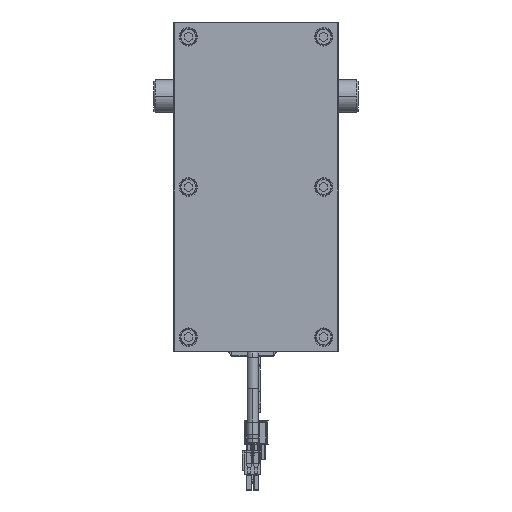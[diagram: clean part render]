
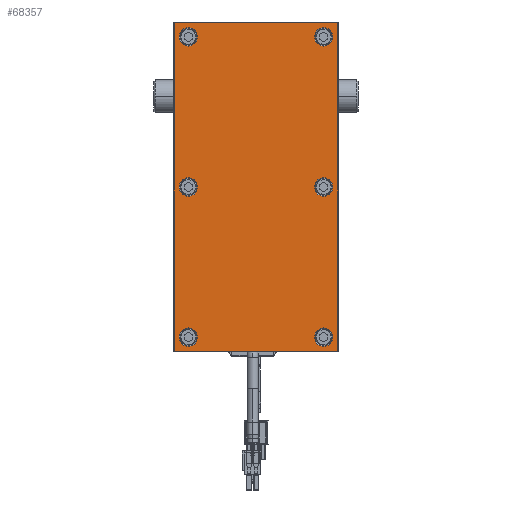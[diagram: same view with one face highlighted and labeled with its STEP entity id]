
A CAD part, front view. The second image highlights one B-rep face of the part: STEP entity #68357.
In plain terms, the highlighted planar face has unit normal (0, -1, 0).
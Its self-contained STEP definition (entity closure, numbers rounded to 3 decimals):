
#66946=CARTESIAN_POINT('',(99.,-7.,-49.));
#66947=DIRECTION('',(0.,-1.,0.));
#66948=DIRECTION('',(0.,0.,-1.));
#66949=AXIS2_PLACEMENT_3D('',#66946,#66947,#66948);
#66951=DIRECTION('',(1.,0.,0.));
#66952=VECTOR('',#66951,198.);
#66953=CARTESIAN_POINT('',(-99.,-7.,
-49.5));
#66954=LINE('',#66953,#66952);
#66955=CARTESIAN_POINT('',(-99.,-7.,-49.));
#66956=DIRECTION('',(0.,-1.,0.));
#66957=DIRECTION('',(-1.,0.,0.));
#66958=AXIS2_PLACEMENT_3D('',#66955,#66956,#66957);
#66960=DIRECTION('',(0.,0.,-1.));
#66961=VECTOR('',#66960,98.);
#66962=CARTESIAN_POINT('',(-99.5,-7.,
49.));
#66963=LINE('',#66962,#66961);
#66964=CARTESIAN_POINT('',(-99.,-7.,49.));
#66965=DIRECTION('',(0.,-1.,0.));
#66966=DIRECTION('',(0.,0.,1.));
#66967=AXIS2_PLACEMENT_3D('',#66964,#66965,#66966);
#66969=DIRECTION('',(-1.,0.,0.));
#66970=VECTOR('',#66969,198.);
#66971=CARTESIAN_POINT('',(99.,-7.,
49.5));
#66972=LINE('',#66971,#66970);
#66973=CARTESIAN_POINT('',(99.,-7.,49.));
#66974=DIRECTION('',(0.,-1.,0.));
#66975=DIRECTION('',(1.,0.,0.));
#66976=AXIS2_PLACEMENT_3D('',#66973,#66974,#66975);
#66978=DIRECTION('',(0.,0.,1.));
#66979=VECTOR('',#66978,98.);
#66980=CARTESIAN_POINT('',(99.5,-7.,
-49.));
#66981=LINE('',#66980,#66979);
#66982=CARTESIAN_POINT('',(-91.,-7.,-41.));
#66983=DIRECTION('',(0.,1.,0.));
#66984=DIRECTION('',(1.,0.,0.));
#66985=AXIS2_PLACEMENT_3D('',#66982,#66983,#66984);
#66987=CARTESIAN_POINT('',(-91.,-7.,-41.));
#66988=DIRECTION('',(0.,1.,0.));
#66989=DIRECTION('',(-1.,0.,0.));
#66990=AXIS2_PLACEMENT_3D('',#66987,#66988,#66989);
#66992=CARTESIAN_POINT('',(0.,-7.,-41.));
#66993=DIRECTION('',(0.,1.,0.));
#66994=DIRECTION('',(1.,0.,0.));
#66995=AXIS2_PLACEMENT_3D('',#66992,#66993,#66994);
#66997=CARTESIAN_POINT('',(0.,-7.,-41.));
#66998=DIRECTION('',(0.,1.,0.));
#66999=DIRECTION('',(-1.,0.,0.));
#67000=AXIS2_PLACEMENT_3D('',#66997,#66998,#66999);
#67002=CARTESIAN_POINT('',(91.,-7.,-41.));
#67003=DIRECTION('',(0.,1.,0.));
#67004=DIRECTION('',(1.,0.,0.));
#67005=AXIS2_PLACEMENT_3D('',#67002,#67003,#67004);
#67007=CARTESIAN_POINT('',(91.,-7.,-41.));
#67008=DIRECTION('',(0.,1.,0.));
#67009=DIRECTION('',(-1.,0.,0.));
#67010=AXIS2_PLACEMENT_3D('',#67007,#67008,#67009);
#67012=CARTESIAN_POINT('',(91.,-7.,41.));
#67013=DIRECTION('',(0.,1.,0.));
#67014=DIRECTION('',(1.,0.,0.));
#67015=AXIS2_PLACEMENT_3D('',#67012,#67013,#67014);
#67017=CARTESIAN_POINT('',(91.,-7.,41.));
#67018=DIRECTION('',(0.,1.,0.));
#67019=DIRECTION('',(-1.,0.,0.));
#67020=AXIS2_PLACEMENT_3D('',#67017,#67018,#67019);
#67022=CARTESIAN_POINT('',(0.,-7.,41.));
#67023=DIRECTION('',(0.,1.,0.));
#67024=DIRECTION('',(1.,0.,0.));
#67025=AXIS2_PLACEMENT_3D('',#67022,#67023,#67024);
#67027=CARTESIAN_POINT('',(0.,-7.,41.));
#67028=DIRECTION('',(0.,1.,0.));
#67029=DIRECTION('',(-1.,0.,0.));
#67030=AXIS2_PLACEMENT_3D('',#67027,#67028,#67029);
#67032=CARTESIAN_POINT('',(-91.,-7.,41.));
#67033=DIRECTION('',(0.,1.,0.));
#67034=DIRECTION('',(1.,0.,0.));
#67035=AXIS2_PLACEMENT_3D('',#67032,#67033,#67034);
#67037=CARTESIAN_POINT('',(-91.,-7.,41.));
#67038=DIRECTION('',(0.,1.,0.));
#67039=DIRECTION('',(-1.,0.,0.));
#67040=AXIS2_PLACEMENT_3D('',#67037,#67038,#67039);
#68098=CARTESIAN_POINT('',(99.,-7.,-49.5));
#68099=CARTESIAN_POINT('',(99.5,-7.,-49.));
#68100=VERTEX_POINT('',#68098);
#68101=VERTEX_POINT('',#68099);
#68106=CARTESIAN_POINT('',(99.5,-7.,
49.));
#68107=VERTEX_POINT('',#68106);
#68110=CARTESIAN_POINT('',(99.,-7.,49.5));
#68111=VERTEX_POINT('',#68110);
#68114=CARTESIAN_POINT('',(-99.,-7.,
49.5));
#68115=VERTEX_POINT('',#68114);
#68118=CARTESIAN_POINT('',(-99.5,-7.,49.));
#68119=VERTEX_POINT('',#68118);
#68122=CARTESIAN_POINT('',(-99.5,-7.,
-49.));
#68123=VERTEX_POINT('',#68122);
#68126=CARTESIAN_POINT('',(-99.,-7.,-49.5));
#68127=VERTEX_POINT('',#68126);
#68154=CARTESIAN_POINT('',(-85.45,-7.,-41.));
#68155=CARTESIAN_POINT('',(-96.55,-7.,-41.));
#68156=VERTEX_POINT('',#68154);
#68157=VERTEX_POINT('',#68155);
#68170=CARTESIAN_POINT('',(5.55,-7.,-41.));
#68171=CARTESIAN_POINT('',(-5.55,-7.,-41.));
#68172=VERTEX_POINT('',#68170);
#68173=VERTEX_POINT('',#68171);
#68194=CARTESIAN_POINT('',(96.55,-7.,-41.));
#68195=CARTESIAN_POINT('',(85.45,-7.,-41.));
#68196=VERTEX_POINT('',#68194);
#68197=VERTEX_POINT('',#68195);
#68210=CARTESIAN_POINT('',(96.55,-7.,41.));
#68211=CARTESIAN_POINT('',(85.45,-7.,41.));
#68212=VERTEX_POINT('',#68210);
#68213=VERTEX_POINT('',#68211);
#68218=CARTESIAN_POINT('',(5.55,-7.,41.));
#68219=CARTESIAN_POINT('',(-5.55,-7.,41.));
#68220=VERTEX_POINT('',#68218);
#68221=VERTEX_POINT('',#68219);
#68242=CARTESIAN_POINT('',(-85.45,-7.,41.));
#68243=CARTESIAN_POINT('',(-96.55,-7.,41.));
#68244=VERTEX_POINT('',#68242);
#68245=VERTEX_POINT('',#68243);
#68298=CARTESIAN_POINT('',(0.,-7.,0.));
#68299=DIRECTION('',(0.,1.,0.));
#68300=DIRECTION('',(1.,0.,0.));
#68301=AXIS2_PLACEMENT_3D('',#68298,#68299,#68300);
#68302=PLANE('',#68301);
#68304=ORIENTED_EDGE('',*,*,#68303,.F.);
#68306=ORIENTED_EDGE('',*,*,#68305,.F.);
#68308=ORIENTED_EDGE('',*,*,#68307,.F.);
#68310=ORIENTED_EDGE('',*,*,#68309,.F.);
#68312=ORIENTED_EDGE('',*,*,#68311,.F.);
#68314=ORIENTED_EDGE('',*,*,#68313,.F.);
#68316=ORIENTED_EDGE('',*,*,#68315,.F.);
#68318=ORIENTED_EDGE('',*,*,#68317,.F.);
#68319=EDGE_LOOP('',(#68304,#68306,#68308,#68310,#68312,#68314,#68316,#68318));
#68320=FACE_OUTER_BOUND('',#68319,.F.);
#68322=ORIENTED_EDGE('',*,*,#68321,.F.);
#68324=ORIENTED_EDGE('',*,*,#68323,.F.);
#68325=EDGE_LOOP('',(#68322,#68324));
#68326=FACE_BOUND('',#68325,.F.);
#68328=ORIENTED_EDGE('',*,*,#68327,.F.);
#68330=ORIENTED_EDGE('',*,*,#68329,.F.);
#68331=EDGE_LOOP('',(#68328,#68330));
#68332=FACE_BOUND('',#68331,.F.);
#68334=ORIENTED_EDGE('',*,*,#68333,.F.);
#68336=ORIENTED_EDGE('',*,*,#68335,.F.);
#68337=EDGE_LOOP('',(#68334,#68336));
#68338=FACE_BOUND('',#68337,.F.);
#68340=ORIENTED_EDGE('',*,*,#68339,.F.);
#68342=ORIENTED_EDGE('',*,*,#68341,.F.);
#68343=EDGE_LOOP('',(#68340,#68342));
#68344=FACE_BOUND('',#68343,.F.);
#68346=ORIENTED_EDGE('',*,*,#68345,.F.);
#68348=ORIENTED_EDGE('',*,*,#68347,.F.);
#68349=EDGE_LOOP('',(#68346,#68348));
#68350=FACE_BOUND('',#68349,.F.);
#68352=ORIENTED_EDGE('',*,*,#68351,.F.);
#68354=ORIENTED_EDGE('',*,*,#68353,.F.);
#68355=EDGE_LOOP('',(#68352,#68354));
#68356=FACE_BOUND('',#68355,.F.);
#68357=ADVANCED_FACE('',(#68320,#68326,#68332,#68338,#68344,#68350,#68356),
#68302,.F.);
#66950=CIRCLE('',#66949,0.5);
#66959=CIRCLE('',#66958,0.5);
#66968=CIRCLE('',#66967,0.5);
#66977=CIRCLE('',#66976,0.5);
#66986=CIRCLE('',#66985,5.55);
#66991=CIRCLE('',#66990,5.55);
#66996=CIRCLE('',#66995,5.55);
#67001=CIRCLE('',#67000,5.55);
#67006=CIRCLE('',#67005,5.55);
#67011=CIRCLE('',#67010,5.55);
#67016=CIRCLE('',#67015,5.55);
#67021=CIRCLE('',#67020,5.55);
#67026=CIRCLE('',#67025,5.55);
#67031=CIRCLE('',#67030,5.55);
#67036=CIRCLE('',#67035,5.55);
#67041=CIRCLE('',#67040,5.55);
#68303=EDGE_CURVE('',#68100,#68101,#66950,.T.);
#68305=EDGE_CURVE('',#68127,#68100,#66954,.T.);
#68307=EDGE_CURVE('',#68123,#68127,#66959,.T.);
#68309=EDGE_CURVE('',#68119,#68123,#66963,.T.);
#68311=EDGE_CURVE('',#68115,#68119,#66968,.T.);
#68313=EDGE_CURVE('',#68111,#68115,#66972,.T.);
#68315=EDGE_CURVE('',#68107,#68111,#66977,.T.);
#68317=EDGE_CURVE('',#68101,#68107,#66981,.T.);
#68321=EDGE_CURVE('',#68156,#68157,#66986,.T.);
#68323=EDGE_CURVE('',#68157,#68156,#66991,.T.);
#68327=EDGE_CURVE('',#68172,#68173,#66996,.T.);
#68329=EDGE_CURVE('',#68173,#68172,#67001,.T.);
#68333=EDGE_CURVE('',#68196,#68197,#67006,.T.);
#68335=EDGE_CURVE('',#68197,#68196,#67011,.T.);
#68339=EDGE_CURVE('',#68212,#68213,#67016,.T.);
#68341=EDGE_CURVE('',#68213,#68212,#67021,.T.);
#68345=EDGE_CURVE('',#68220,#68221,#67026,.T.);
#68347=EDGE_CURVE('',#68221,#68220,#67031,.T.);
#68351=EDGE_CURVE('',#68244,#68245,#67036,.T.);
#68353=EDGE_CURVE('',#68245,#68244,#67041,.T.);
